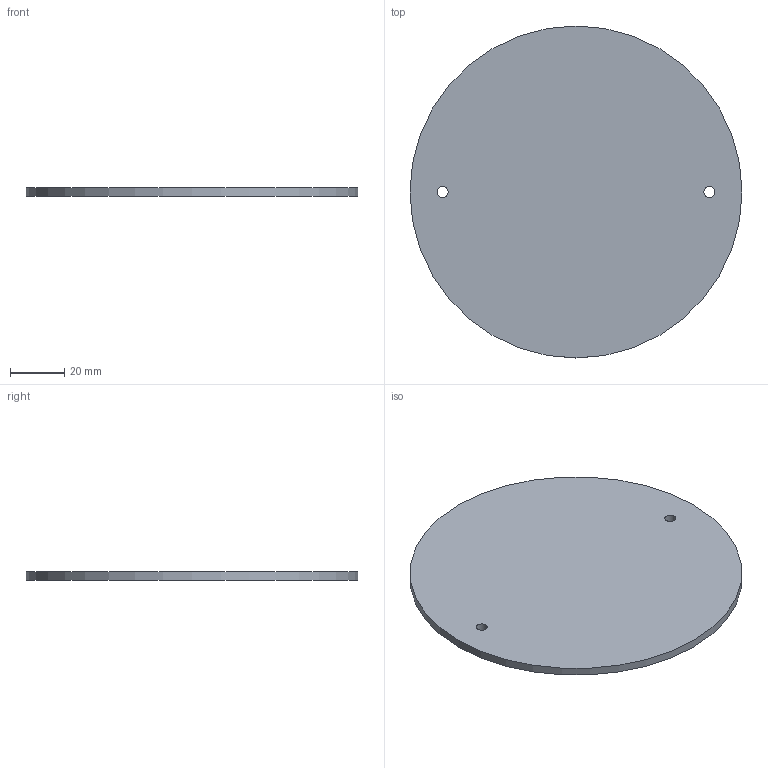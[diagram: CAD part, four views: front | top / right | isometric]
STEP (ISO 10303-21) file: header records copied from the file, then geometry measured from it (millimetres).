
FILE_DESCRIPTION(('Open CASCADE Model'),'2;1');
FILE_NAME('Open CASCADE Shape Model','2026-10-01T15:23:50',('Author'),( 'Open CASCADE'),'Open CASCADE STEP processor 7.9','Open CASCADE 7.9' ,'Unknown');
FILE_SCHEMA(('AUTOMOTIVE_DESIGN { 1 0 10303 214 1 1 1 1 }'));
Length unit declared in the file: millimetre
Products named in the file (1): Open CASCADE STEP translator 7.9 6
Bounding box: 122 x 122 x 3 mm (x, y, z)
Volume: 34994.2 mm3; surface area: 24554.7 mm2
Topology: 1 solids, 1 shells, 5 faces, 9 edges, 6 vertices
Faces by surface type: cylinder 3, plane 2
Full cylindrical faces by diameter (mm): 4 x2, 122 x1
Entity records: 276 total; most frequent: CARTESIAN_POINT 63, DIRECTION 41, ORIENTED_EDGE 18, PCURVE 18, DEFINITIONAL_REPRESENTATION 18, LINE 15, VECTOR 15, AXIS2_PLACEMENT_3D 12
